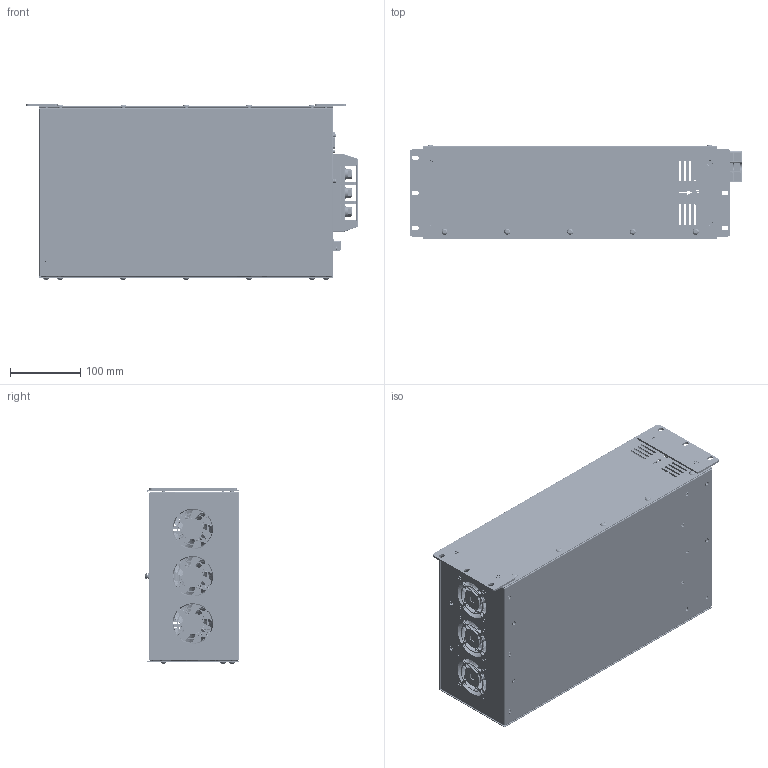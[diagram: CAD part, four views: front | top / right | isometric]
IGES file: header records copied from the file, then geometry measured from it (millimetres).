
Global section: file name: VX3COM_OLED_V_2026.06.10_단순화_1; native system: Autodesk Inventor 2026; preprocessor: unknown; author: Administrator; date: 20260611.113109; units: millimetre
Bounding box: 474 x 134.59 x 250.79 mm (x, y, z)
Volume: 720638.7 mm3; surface area: 948371 mm2
Topology: 14 solids, 14 shells, 9303 faces, 25319 edges, 16654 vertices
Faces by surface type: bspline 9303
